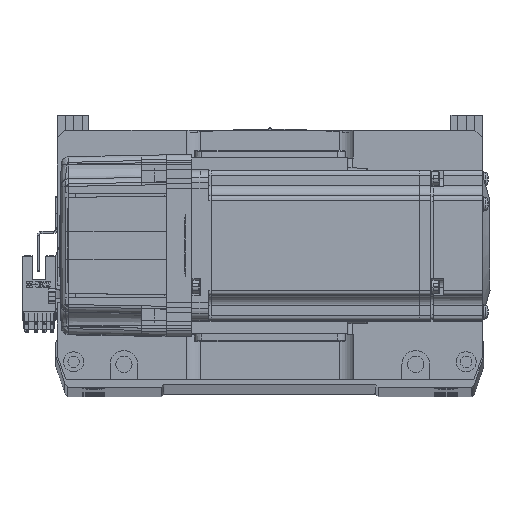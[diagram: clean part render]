
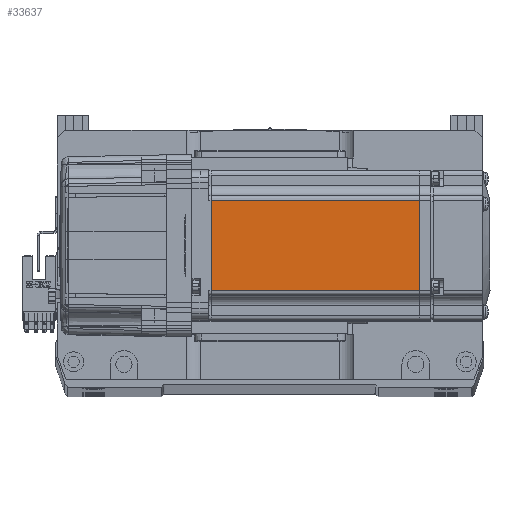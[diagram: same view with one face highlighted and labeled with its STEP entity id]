
A CAD part, top view. The second image highlights one B-rep face of the part: STEP entity #33637.
In plain terms, the highlighted planar face has unit normal (0, 0, 1) as drawn and (0, -1, 0) by its records, which use the part's own axes.
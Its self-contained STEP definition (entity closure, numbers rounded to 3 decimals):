
#4303 = ORIENTED_EDGE ( 'NONE', *, *, #64196, .T. ) ;
#5778 = VERTEX_POINT ( 'NONE', #67468 ) ;
#5906 = LINE ( 'NONE', #49875, #14845 ) ;
#6924 = FACE_OUTER_BOUND ( 'NONE', #9644, .T. ) ;
#8260 = DIRECTION ( 'NONE',  ( 1., 0., 0. ) ) ;
#9262 = CARTESIAN_POINT ( 'NONE',  ( -6.5, -30., 18. ) ) ;
#9644 = EDGE_LOOP ( 'NONE', ( #4303, #52818, #38508, #20771 ) ) ;
#12576 = CARTESIAN_POINT ( 'NONE',  ( -6.5, -30., -25. ) ) ;
#13034 = VECTOR ( 'NONE', #55860, 1000. ) ;
#14845 = VECTOR ( 'NONE', #8260, 1000. ) ;
#20771 = ORIENTED_EDGE ( 'NONE', *, *, #51747, .T. ) ;
#22241 = LINE ( 'NONE', #57119, #54976 ) ;
#25871 = VERTEX_POINT ( 'NONE', #38147 ) ;
#29188 = AXIS2_PLACEMENT_3D ( 'NONE', #12576, #34256, #44509 ) ;
#31717 = VECTOR ( 'NONE', #66403, 1000. ) ;
#32293 = VERTEX_POINT ( 'NONE', #49883 ) ;
#33637 = ADVANCED_FACE ( 'NONE', ( #6924 ), #49350, .T. ) ;
#34256 = DIRECTION ( 'NONE',  ( 0., -1., 0. ) ) ;
#36069 = DIRECTION ( 'NONE',  ( 0., 0., 1. ) ) ;
#38147 = CARTESIAN_POINT ( 'NONE',  ( -90.45, -30., 18. ) ) ;
#38508 = ORIENTED_EDGE ( 'NONE', *, *, #39414, .T. ) ;
#39414 = EDGE_CURVE ( 'NONE', #25871, #51131, #39953, .T. ) ;
#39953 = LINE ( 'NONE', #66424, #13034 ) ;
#42954 = EDGE_CURVE ( 'NONE', #5778, #25871, #58655, .T. ) ;
#43310 = CARTESIAN_POINT ( 'NONE',  ( -90.45, -30., -18. ) ) ;
#44509 = DIRECTION ( 'NONE',  ( 0., 0., -1. ) ) ;
#49350 = PLANE ( 'NONE',  #29188 ) ;
#49875 = CARTESIAN_POINT ( 'NONE',  ( -6.5, -30., -18. ) ) ;
#49883 = CARTESIAN_POINT ( 'NONE',  ( -7.75, -30., -18. ) ) ;
#51131 = VERTEX_POINT ( 'NONE', #43310 ) ;
#51747 = EDGE_CURVE ( 'NONE', #51131, #32293, #5906, .T. ) ;
#52818 = ORIENTED_EDGE ( 'NONE', *, *, #42954, .T. ) ;
#54976 = VECTOR ( 'NONE', #36069, 1000. ) ;
#55860 = DIRECTION ( 'NONE',  ( 0., 0., -1. ) ) ;
#57119 = CARTESIAN_POINT ( 'NONE',  ( -7.75, -30., -25. ) ) ;
#58655 = LINE ( 'NONE', #9262, #31717 ) ;
#64196 = EDGE_CURVE ( 'NONE', #32293, #5778, #22241, .T. ) ;
#66403 = DIRECTION ( 'NONE',  ( -1., 0., 0. ) ) ;
#66424 = CARTESIAN_POINT ( 'NONE',  ( -90.45, -30., -25. ) ) ;
#67468 = CARTESIAN_POINT ( 'NONE',  ( -7.75, -30., 18. ) ) ;
